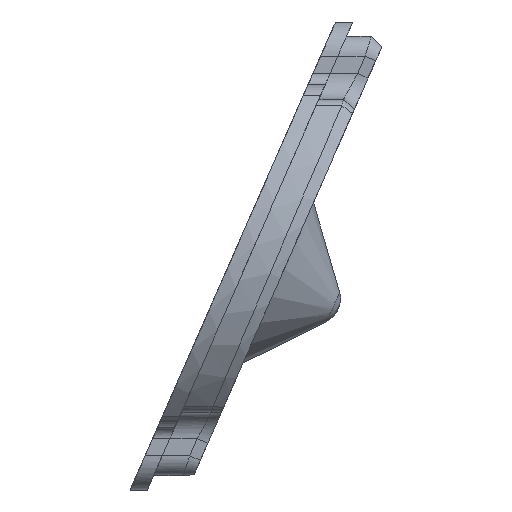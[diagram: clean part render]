
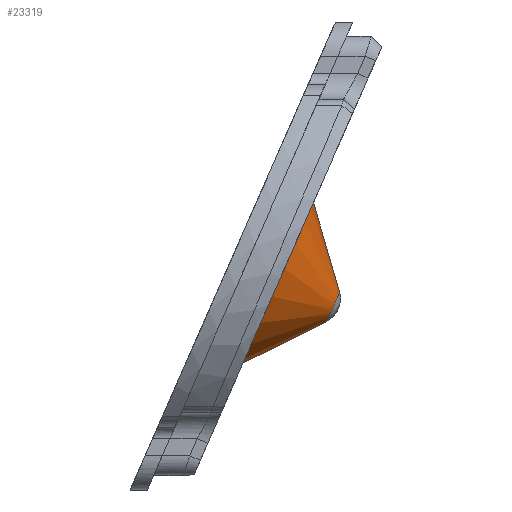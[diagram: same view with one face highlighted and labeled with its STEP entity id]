
A CAD part, left-side view. The second image highlights one B-rep face of the part: STEP entity #23319.
In plain terms, the highlighted conical face has half-angle 50 degrees and reference radius 11.5 mm.
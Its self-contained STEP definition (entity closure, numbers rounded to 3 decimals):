
#136 = EDGE_CURVE ( 'NONE', #24049, #14445, #16414, .T. ) ;
#1598 = CARTESIAN_POINT ( 'NONE',  ( -8.593, 8.797, -5.757 ) ) ;
#1776 = CARTESIAN_POINT ( 'NONE',  ( -9.913, 8.18, -4.383 ) ) ;
#3766 = CARTESIAN_POINT ( 'NONE',  ( -9.21, 7.716, -3.348 ) ) ;
#5339 = EDGE_LOOP ( 'NONE', ( #24162, #15837, #6328, #21148 ) ) ;
#5636 = CARTESIAN_POINT ( 'NONE',  ( -8.5, 7.639, -3.176 ) ) ;
#5911 = CARTESIAN_POINT ( 'NONE',  ( -9.212, 8.723, -5.594 ) ) ;
#6328 = ORIENTED_EDGE ( 'NONE', *, *, #16572, .F. ) ;
#6935 = CIRCLE ( 'NONE', #18737, 10.385 ) ;
#7697 = CARTESIAN_POINT ( 'NONE',  ( -8.957, 8.767, -5.69 ) ) ;
#7787 = CARTESIAN_POINT ( 'NONE',  ( -9.84, 8.404, -4.883 ) ) ;
#7969 = CARTESIAN_POINT ( 'NONE',  ( -9.868, 8.067, -4.133 ) ) ;
#8828 = VECTOR ( 'NONE', #19164, 1000. ) ;
#9665 = CARTESIAN_POINT ( 'NONE',  ( -8.5, 15.962, -1.052 ) ) ;
#9887 = CARTESIAN_POINT ( 'NONE',  ( -8.687, 7.639, -3.176 ) ) ;
#9919 = CARTESIAN_POINT ( 'NONE',  ( -8.5, 10.93, 8.08 ) ) ;
#10750 = VERTEX_POINT ( 'NONE', #9919 ) ;
#11750 = CARTESIAN_POINT ( 'NONE',  ( -9.363, 7.758, -3.442 ) ) ;
#11843 = CARTESIAN_POINT ( 'NONE',  ( -9.904, 8.293, -4.635 ) ) ;
#12090 = LINE ( 'NONE', #18545, #19096 ) ;
#13198 = CARTESIAN_POINT ( 'NONE',  ( -8.5, 7.639, -3.176 ) ) ;
#13475 = DIRECTION ( 'NONE',  ( 0., -0.402, 0.916 ) ) ;
#13768 = CARTESIAN_POINT ( 'NONE',  ( -9.629, 8.573, -5.26 ) ) ;
#13852 = CARTESIAN_POINT ( 'NONE',  ( -9.631, 7.862, -3.675 ) ) ;
#13944 = CARTESIAN_POINT ( 'NONE',  ( -8.871, 7.655, -3.21 ) ) ;
#14034 = CARTESIAN_POINT ( 'NONE',  ( -9.369, 8.68, -5.497 ) ) ;
#14123 = CARTESIAN_POINT ( 'NONE',  ( -9.434, 7.782, -3.495 ) ) ;
#14445 = VERTEX_POINT ( 'NONE', #13198 ) ;
#14453 = FACE_OUTER_BOUND ( 'NONE', #5339, .T. ) ;
#14882 = CARTESIAN_POINT ( 'NONE',  ( -8.5, 11.339, 9.478 ) ) ;
#15837 = ORIENTED_EDGE ( 'NONE', *, *, #26458, .T. ) ;
#15892 = AXIS2_PLACEMENT_3D ( 'NONE', #9665, #25761, #13475 ) ;
#15894 = VERTEX_POINT ( 'NONE', #23954 ) ;
#15903 = CARTESIAN_POINT ( 'NONE',  ( -9.904, 8.141, -4.298 ) ) ;
#16001 = CARTESIAN_POINT ( 'NONE',  ( -9.841, 8.031, -4.052 ) ) ;
#16171 = CARTESIAN_POINT ( 'NONE',  ( -9.127, 7.698, -3.307 ) ) ;
#16414 = B_SPLINE_CURVE_WITH_KNOTS ( 'NONE', 3,
 ( #17867, #1598, #24018, #17958, #7697, #5911, #14034, #13768, #24277, #7787, #20206, #11843, #22146, #1776, #15903, #7969, #16001, #26336, #13852, #14123, #11750, #3766, #16171, #13944, #9887, #5636 ),
 .UNSPECIFIED., .F., .F.,
 ( 4, 2, 2, 2, 2, 2, 2, 2, 2, 2, 2, 2, 4 ),
 ( 0., 0., 0.001, 0.001, 0.002, 0.002, 0.002, 0.002, 0.003, 0.003, 0.004, 0.004, 0.004 ),
 .UNSPECIFIED. ) ;
#16572 = EDGE_CURVE ( 'NONE', #24049, #15894, #12090, .T. ) ;
#17867 = CARTESIAN_POINT ( 'NONE',  ( -8.5, 8.797, -5.757 ) ) ;
#17958 = CARTESIAN_POINT ( 'NONE',  ( -8.867, 8.778, -5.715 ) ) ;
#18094 = EDGE_CURVE ( 'NONE', #10750, #14445, #25084, .T. ) ;
#18545 = CARTESIAN_POINT ( 'NONE',  ( -8.5, 7.126, -4.931 ) ) ;
#18737 = AXIS2_PLACEMENT_3D ( 'NONE', #21503, #21418, #25881 ) ;
#19096 = VECTOR ( 'NONE', #22274, 1000. ) ;
#19164 = DIRECTION ( 'NONE',  ( 0., -0.281, -0.96 ) ) ;
#20206 = CARTESIAN_POINT ( 'NONE',  ( -9.868, 8.367, -4.801 ) ) ;
#21148 = ORIENTED_EDGE ( 'NONE', *, *, #136, .T. ) ;
#21418 = DIRECTION ( 'NONE',  ( 0., -0.916, -0.402 ) ) ;
#21503 = CARTESIAN_POINT ( 'NONE',  ( -8.5, 15.105, -1.428 ) ) ;
#22146 = CARTESIAN_POINT ( 'NONE',  ( -9.913, 8.255, -4.552 ) ) ;
#22274 = DIRECTION ( 'NONE',  ( 0., 0.897, -0.443 ) ) ;
#23319 = ADVANCED_FACE ( 'NONE', ( #14453 ), #25546, .T. ) ;
#23954 = CARTESIAN_POINT ( 'NONE',  ( -8.5, 19.28, -10.937 ) ) ;
#24018 = CARTESIAN_POINT ( 'NONE',  ( -8.685, 8.793, -5.748 ) ) ;
#24049 = VERTEX_POINT ( 'NONE', #24979 ) ;
#24162 = ORIENTED_EDGE ( 'NONE', *, *, #18094, .F. ) ;
#24277 = CARTESIAN_POINT ( 'NONE',  ( -9.735, 8.508, -5.116 ) ) ;
#24979 = CARTESIAN_POINT ( 'NONE',  ( -8.5, 8.797, -5.757 ) ) ;
#25084 = LINE ( 'NONE', #14882, #8828 ) ;
#25546 = CONICAL_SURFACE ( 'NONE', #15892, 11.5, 0.873 ) ;
#25761 = DIRECTION ( 'NONE',  ( 0., 0.916, 0.402 ) ) ;
#25881 = DIRECTION ( 'NONE',  ( 0., -0.402, 0.916 ) ) ;
#26336 = CARTESIAN_POINT ( 'NONE',  ( -9.735, 7.926, -3.817 ) ) ;
#26458 = EDGE_CURVE ( 'NONE', #10750, #15894, #6935, .T. ) ;
